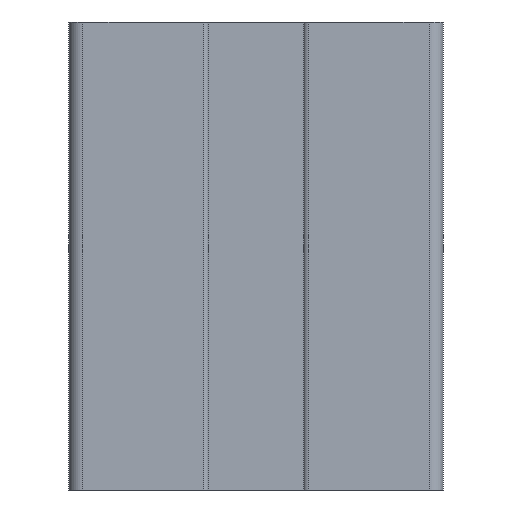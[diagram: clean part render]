
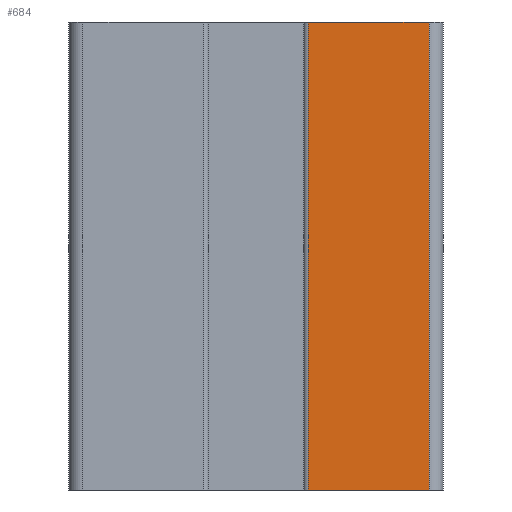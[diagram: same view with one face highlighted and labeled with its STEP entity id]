
A CAD part, front view. The second image highlights one B-rep face of the part: STEP entity #684.
In plain terms, the highlighted planar face has unit normal (0, -1, 0).
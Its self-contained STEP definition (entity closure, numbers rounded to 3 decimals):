
#684=ADVANCED_FACE('',(#1540),#1541,.F.);
#1540=FACE_OUTER_BOUND('',#2551,.T.);
#1541=PLANE('',#2552);
#2551=EDGE_LOOP('',(#5015,#5016,#5017,#5018));
#2552=AXIS2_PLACEMENT_3D('',#5019,#5020,#5021);
#5015=ORIENTED_EDGE('',*,*,#6902,.T.);
#5016=ORIENTED_EDGE('',*,*,#7325,.F.);
#5017=ORIENTED_EDGE('',*,*,#6579,.F.);
#5018=ORIENTED_EDGE('',*,*,#7327,.T.);
#5019=CARTESIAN_POINT('',(25.6,0.,50.0));
#5020=DIRECTION('',(0.0,1.0,0.0));
#5021=DIRECTION('',(0.0,0.0,1.0));
#6579=EDGE_CURVE('',#8126,#8128,#8129,.T.);
#6902=EDGE_CURVE('',#8771,#8769,#8772,.T.);
#7325=EDGE_CURVE('',#8128,#8769,#9295,.T.);
#7327=EDGE_CURVE('',#8126,#8771,#9297,.T.);
#8126=VERTEX_POINT('',#10209);
#8128=VERTEX_POINT('',#10211);
#8129=LINE('',#10212,#10213);
#8769=VERTEX_POINT('',#11002);
#8771=VERTEX_POINT('',#11004);
#8772=LINE('',#11005,#11006);
#9295=LINE('',#11739,#11740);
#9297=LINE('',#11742,#11743);
#10209=CARTESIAN_POINT('',(25.6,0.,50.0));
#10211=CARTESIAN_POINT('',(38.5,0.,50.0));
#10212=CARTESIAN_POINT('',(25.6,0.,50.0));
#10213=VECTOR('',#12711,1.0);
#11002=CARTESIAN_POINT('',(38.5,0.,0.0));
#11004=CARTESIAN_POINT('',(25.6,0.,0.0));
#11005=CARTESIAN_POINT('',(25.6,0.,0.0));
#11006=VECTOR('',#13377,1.0);
#11739=CARTESIAN_POINT('',(38.5,0.,50.0));
#11740=VECTOR('',#13750,1.0);
#11742=CARTESIAN_POINT('',(25.6,0.,50.0));
#11743=VECTOR('',#13751,1.0);
#12711=DIRECTION('',(1.0,0.0,0.0));
#13377=DIRECTION('',(1.0,0.0,0.0));
#13750=DIRECTION('',(0.0,0.0,-1.0));
#13751=DIRECTION('',(0.0,0.0,-1.0));
